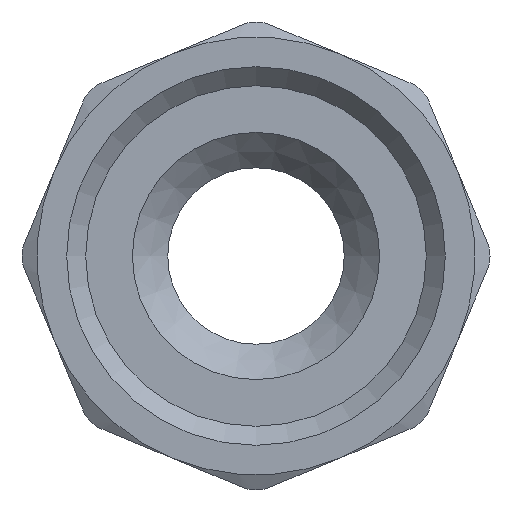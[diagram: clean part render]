
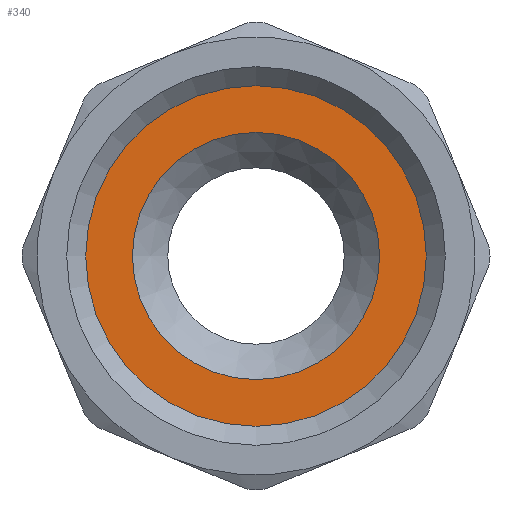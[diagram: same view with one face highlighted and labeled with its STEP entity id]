
A CAD part, front view. The second image highlights one B-rep face of the part: STEP entity #340.
In plain terms, the highlighted planar face has unit normal (0, -1, 0).
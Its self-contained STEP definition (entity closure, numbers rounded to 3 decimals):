
#340=ADVANCED_FACE('',(#917,#919),#921,.F.);
#917=FACE_BOUND('',#918,.T.);
#918=EDGE_LOOP('',(#1398));
#919=FACE_BOUND('',#920,.T.);
#920=EDGE_LOOP('',(#1399));
#921=PLANE('',#922);
#922=AXIS2_PLACEMENT_3D('',#923,#924,#925);
#923=CARTESIAN_POINT('',(0.,0.,0.));
#924=DIRECTION('',(0.,1.,0.));
#925=DIRECTION('',(-1.,0.,0.));
#1398=ORIENTED_EDGE('',*,*,#1639,.F.);
#1399=ORIENTED_EDGE('',*,*,#1640,.T.);
#1639=EDGE_CURVE('',#1856,#1856,#1857,.T.);
#1640=EDGE_CURVE('',#1858,#1858,#1859,.T.);
#1856=VERTEX_POINT('',#2334);
#1857=CIRCLE('',#2335,12.1);
#1858=VERTEX_POINT('',#2339);
#1859=CIRCLE('',#2340,8.75);
#2334=CARTESIAN_POINT('',(-12.1,0.,0.));
#2335=AXIS2_PLACEMENT_3D('',#2336,#2337,#2338);
#2336=CARTESIAN_POINT('',(0.,0.,0.));
#2337=DIRECTION('',(0.,1.,0.));
#2338=DIRECTION('',(-1.,0.,0.));
#2339=CARTESIAN_POINT('',(-8.75,0.,0.));
#2340=AXIS2_PLACEMENT_3D('',#2341,#2342,#2343);
#2341=CARTESIAN_POINT('',(0.,0.,0.));
#2342=DIRECTION('',(0.,1.,0.));
#2343=DIRECTION('',(-1.,0.,0.));
